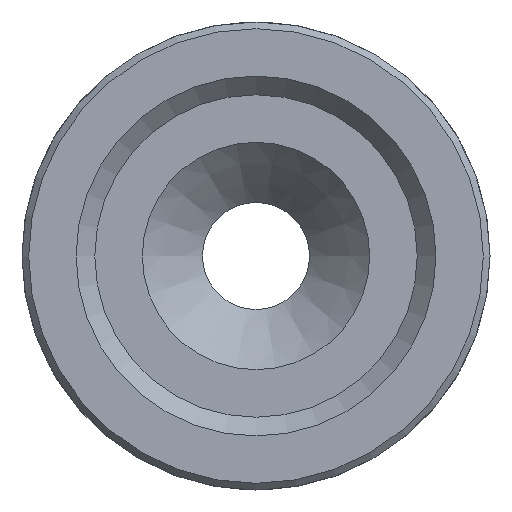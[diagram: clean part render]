
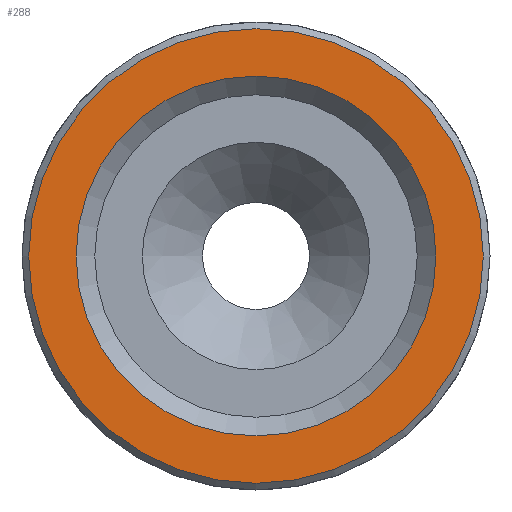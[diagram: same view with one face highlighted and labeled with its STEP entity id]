
A CAD part, front view. The second image highlights one B-rep face of the part: STEP entity #288.
In plain terms, the highlighted planar face has unit normal (0, -1, 0).
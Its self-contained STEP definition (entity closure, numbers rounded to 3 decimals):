
#288=ADVANCED_FACE('',(#1918,#1920),#1922,.F.);
#1918=FACE_BOUND('',#1919,.T.);
#1919=EDGE_LOOP('',(#3957));
#1920=FACE_BOUND('',#1921,.T.);
#1921=EDGE_LOOP('',(#3958));
#1922=PLANE('',#1923);
#1923=AXIS2_PLACEMENT_3D('',#1924,#1925,#1926);
#1924=CARTESIAN_POINT('',(0.,0.,0.));
#1925=DIRECTION('',(0.,1.,0.));
#1926=DIRECTION('',(-1.,0.,0.));
#3957=ORIENTED_EDGE('',*,*,#4888,.T.);
#3958=ORIENTED_EDGE('',*,*,#4911,.T.);
#4888=EDGE_CURVE('',#6035,#6035,#6036,.T.);
#4911=EDGE_CURVE('',#6080,#6080,#6081,.F.);
#6035=VERTEX_POINT('',#9613);
#6036=CIRCLE('',#9614,17.);
#6080=VERTEX_POINT('',#9708);
#6081=CIRCLE('',#9709,13.459);
#9613=CARTESIAN_POINT('',(17.,0.,0.));
#9614=AXIS2_PLACEMENT_3D('',#9615,#9616,#9617);
#9615=CARTESIAN_POINT('',(0.,0.,0.));
#9616=DIRECTION('',(0.,-1.,0.));
#9617=DIRECTION('',(1.,0.,0.));
#9708=CARTESIAN_POINT('',(13.459,0.,0.));
#9709=AXIS2_PLACEMENT_3D('',#9710,#9711,#9712);
#9710=CARTESIAN_POINT('',(0.,0.,0.));
#9711=DIRECTION('',(0.,-1.,0.));
#9712=DIRECTION('',(1.,0.,0.));
